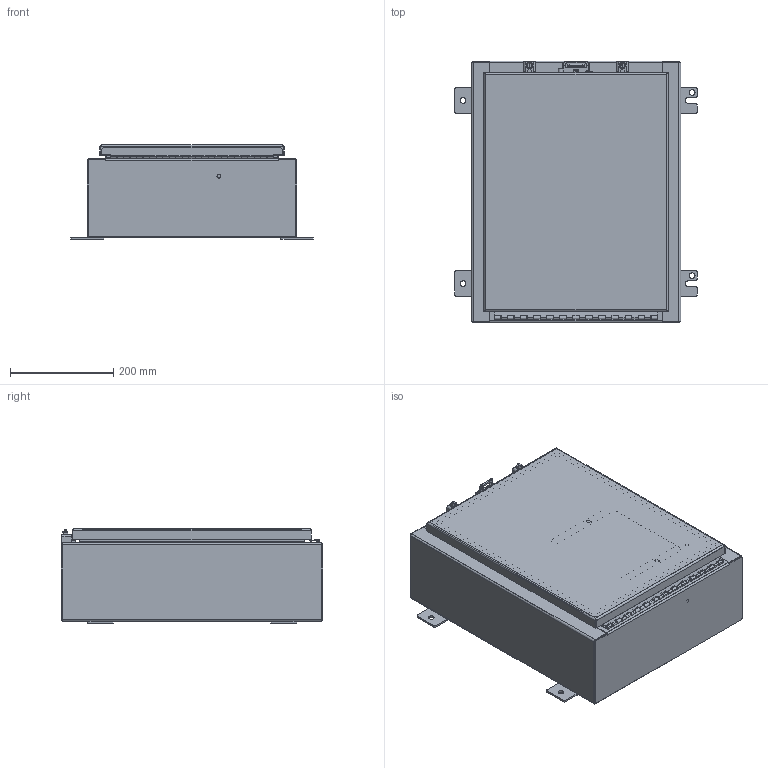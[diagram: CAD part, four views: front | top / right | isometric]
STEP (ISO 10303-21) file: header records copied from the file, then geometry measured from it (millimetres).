
FILE_DESCRIPTION((''),'2;1');
FILE_NAME('MODEL-304_ASM','2021-05-20T09:17:58',('mikek'),('SAGINAW CONTROL & ENGINEERING'),'CREO PARAMETRIC BY PTC INC, 2017260','CREO PARAMETRIC BY PTC INC, 2017260','');
FILE_SCHEMA(('AUTOMOTIVE_DESIGN { 1 0 10303 214 1 1 1 1 }'));
Length unit declared in the file: inch
Products named in the file (29): MODEL-304-BDY; MODEL-304-RS; MODEL-304-LS; MODEL-304-DR; 100837; 100882; 111541; 118914_DR; 118914_PIN; 118914_BX; 118914_STUD; 118914_ASM; 100897; MODEL-304-DOOR-GASKET; 128600; 102483; MODEL-304-DOOR-ASSY_ASM; 102211; 101651; 121452; 120131_BASE; 120131_CLAMP; 120131_SCREW; 120131_ASM; 120134; SUBPANEL; 100904; SUBPANEL-SUBASSEMBLY_ASM; MODEL-304_ASM
Assembly tree (49 placements, depth 4):
  MODEL-304_ASM
    MODEL-304-BDY
    MODEL-304-RS
    MODEL-304-LS
    MODEL-304-DOOR-ASSY_ASM
      MODEL-304-DR
      100837  x3
      100882  x2
      111541
      118914_ASM
        118914_DR
        118914_PIN
        118914_BX
        118914_STUD  x3
      100897  x3
      MODEL-304-DOOR-GASKET
      128600
      102483
    102211  x4
    100837
    101651  x4
    121452
    120131_ASM  x2
      120131_BASE
      120131_CLAMP
      120131_SCREW
    100882  x3
    120134
    SUBPANEL-SUBASSEMBLY_ASM
      SUBPANEL
      100904  x4
Bounding box: 469.9 x 508 x 183.08 mm (x, y, z)
Volume: 2237078.7 mm3; surface area: 2068134.2 mm2
Topology: 46 solids, 46 shells, 3190 faces, 8274 edges, 5210 vertices
Faces by surface type: plane 1229, bspline 917, cylinder 681, torus 200, sphere 85, cone 78
Entity records: 86655 total; most frequent: CARTESIAN_POINT 29111, ORIENTED_EDGE 8166, DIRECTION 7227, PRESENTATION_STYLE_ASSIGNMENT 4211, STYLED_ITEM 4211, CURVE_STYLE 4083, EDGE_CURVE 4083, VERTEX_POINT 2568
